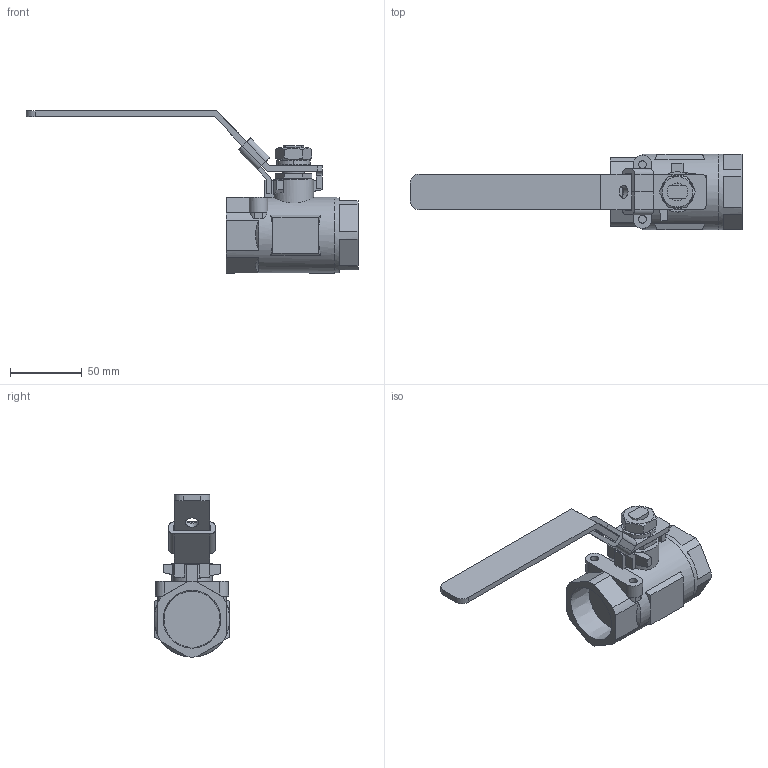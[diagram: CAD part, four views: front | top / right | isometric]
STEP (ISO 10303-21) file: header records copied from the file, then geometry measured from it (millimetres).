
FILE_DESCRIPTION((' '),'2;1');
FILE_NAME('N:\Technical Support\Private\Jomar Valve CAD\Ball Valves\CS and SS\2000N\1.25 T-CS[SS]-2000N (100-956 [100-936])FusionCopy.stp.step','2017-05-26T08:49:58',(' '),(' '),' ','ACIS',' ');
FILE_SCHEMA(('CONFIG_CONTROL_DESIGN'));
Length unit declared in the file: inch
Products named in the file (9): N:\Technical Support\Private\Jomar Valve CAD\Ball Valves\CS and SS\2000N\1.25 T-CS[SS]-2000N (100-956 [100-936])FusionCopy.stp.step; Body1; Body2; Body3; Body4; Body5; Body6; Body7; Body8
Assembly tree (8 placements, depth 2):
  N:\Technical Support\Private\Jomar Valve CAD\Ball Valves\CS and SS\2000N\1.25 T-CS[SS]-2000N (100-956 [100-936])FusionCopy.stp.step
    Body1
    Body2
    Body3
    Body4
    Body5
    Body6
    Body7
    Body8
Bounding box: 231.38 x 52.7 x 113.01 mm (x, y, z)
Volume: 202045.1 mm3; surface area: 51093.9 mm2
Topology: 8 solids, 8 shells, 184 faces, 473 edges, 310 vertices
Faces by surface type: plane 114, cylinder 35, bspline 19, cone 16
Full cylindrical faces by diameter (mm): 5.334 x2, 8.966 x1, 12.344 x1, 14.986 x1, 15.367 x1, 20.701 x1, 28.042 x1, 52.705 x2
Entity records: 6754 total; most frequent: CARTESIAN_POINT 1117, DIRECTION 907, ORIENTED_EDGE 898, EDGE_CURVE 449, VECTOR 307, LINE 307, VERTEX_POINT 301, AXIS2_PLACEMENT_3D 300
